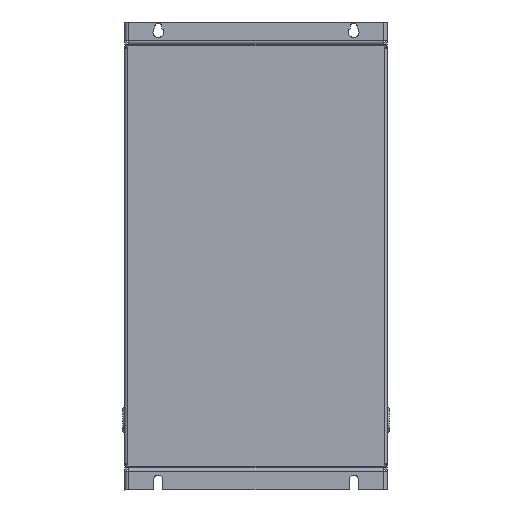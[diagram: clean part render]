
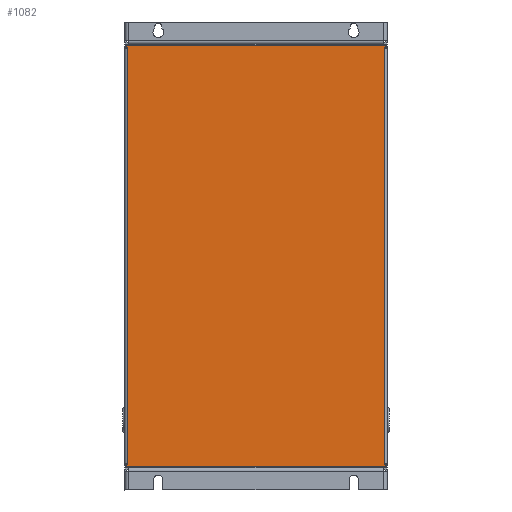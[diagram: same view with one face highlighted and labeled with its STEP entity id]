
A CAD part, left-side view. The second image highlights one B-rep face of the part: STEP entity #1082.
In plain terms, the highlighted planar face has unit normal (-1, 0, 0).
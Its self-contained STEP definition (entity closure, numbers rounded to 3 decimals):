
#1082=ADVANCED_FACE('',(#3231),#3233,.F.);
#3231=FACE_BOUND('',#3232,.T.);
#3232=EDGE_LOOP('',(#15832,#15833,#15834,#15835,#15836,#15837,#15838,#15839));
#3233=PLANE('',#3234);
#3234=AXIS2_PLACEMENT_3D('',#3235,#3236,#3237);
#3235=CARTESIAN_POINT('',(0.,0.,0.));
#3236=DIRECTION('',(1.,0.,0.));
#3237=DIRECTION('',(0.,1.,0.));
#15832=ORIENTED_EDGE('',*,*,#23012,.T.);
#15833=ORIENTED_EDGE('',*,*,#23013,.F.);
#15834=ORIENTED_EDGE('',*,*,#23014,.T.);
#15835=ORIENTED_EDGE('',*,*,#23015,.T.);
#15836=ORIENTED_EDGE('',*,*,#23016,.T.);
#15837=ORIENTED_EDGE('',*,*,#23017,.F.);
#15838=ORIENTED_EDGE('',*,*,#23018,.T.);
#15839=ORIENTED_EDGE('',*,*,#23005,.T.);
#23005=EDGE_CURVE('',#26605,#26603,#26606,.T.);
#23012=EDGE_CURVE('',#26603,#26618,#26619,.F.);
#23013=EDGE_CURVE('',#26620,#26618,#26621,.T.);
#23014=EDGE_CURVE('',#26620,#26622,#26623,.F.);
#23015=EDGE_CURVE('',#26622,#26624,#26625,.T.);
#23016=EDGE_CURVE('',#26624,#26626,#26627,.F.);
#23017=EDGE_CURVE('',#26628,#26626,#26629,.T.);
#23018=EDGE_CURVE('',#26628,#26605,#26630,.F.);
#26603=VERTEX_POINT('',#32511);
#26605=VERTEX_POINT('',#32516);
#26606=LINE('',#32517,#32518);
#26618=VERTEX_POINT('',#32546);
#26619=LINE('',#32547,#32548);
#26620=VERTEX_POINT('',#32550);
#26621=LINE('',#32551,#32552);
#26622=VERTEX_POINT('',#32554);
#26623=LINE('',#32555,#32556);
#26624=VERTEX_POINT('',#32558);
#26625=LINE('',#32559,#32560);
#26626=VERTEX_POINT('',#32562);
#26627=LINE('',#32563,#32564);
#26628=VERTEX_POINT('',#32566);
#26629=LINE('',#32567,#32568);
#26630=LINE('',#32570,#32571);
#32511=CARTESIAN_POINT('',(0.,125.,-201.85));
#32516=CARTESIAN_POINT('',(0.,125.,201.85));
#32517=CARTESIAN_POINT('',(0.,125.,201.85));
#32518=VECTOR('',#32519,1.);
#32519=DIRECTION('',(0.,0.,-1.));
#32546=CARTESIAN_POINT('',(0.,125.,-204.35));
#32547=CARTESIAN_POINT('',(0.,125.,-204.35));
#32548=VECTOR('',#32549,1.);
#32549=DIRECTION('',(0.,0.,1.));
#32550=CARTESIAN_POINT('',(0.,-125.,-204.35));
#32551=CARTESIAN_POINT('',(0.,-125.,-204.35));
#32552=VECTOR('',#32553,1.);
#32553=DIRECTION('',(0.,1.,0.));
#32554=CARTESIAN_POINT('',(0.,-125.,-201.85));
#32555=CARTESIAN_POINT('',(0.,-125.,-201.85));
#32556=VECTOR('',#32557,1.);
#32557=DIRECTION('',(0.,0.,-1.));
#32558=CARTESIAN_POINT('',(0.,-125.,201.85));
#32559=CARTESIAN_POINT('',(0.,-125.,-201.85));
#32560=VECTOR('',#32561,1.);
#32561=DIRECTION('',(0.,0.,1.));
#32562=CARTESIAN_POINT('',(0.,-125.,204.35));
#32563=CARTESIAN_POINT('',(0.,-125.,204.35));
#32564=VECTOR('',#32565,1.);
#32565=DIRECTION('',(0.,0.,-1.));
#32566=CARTESIAN_POINT('',(0.,125.,204.35));
#32567=CARTESIAN_POINT('',(0.,125.,204.35));
#32568=VECTOR('',#32569,1.);
#32569=DIRECTION('',(0.,-1.,0.));
#32570=CARTESIAN_POINT('',(0.,125.,201.85));
#32571=VECTOR('',#32572,1.);
#32572=DIRECTION('',(0.,0.,1.));
